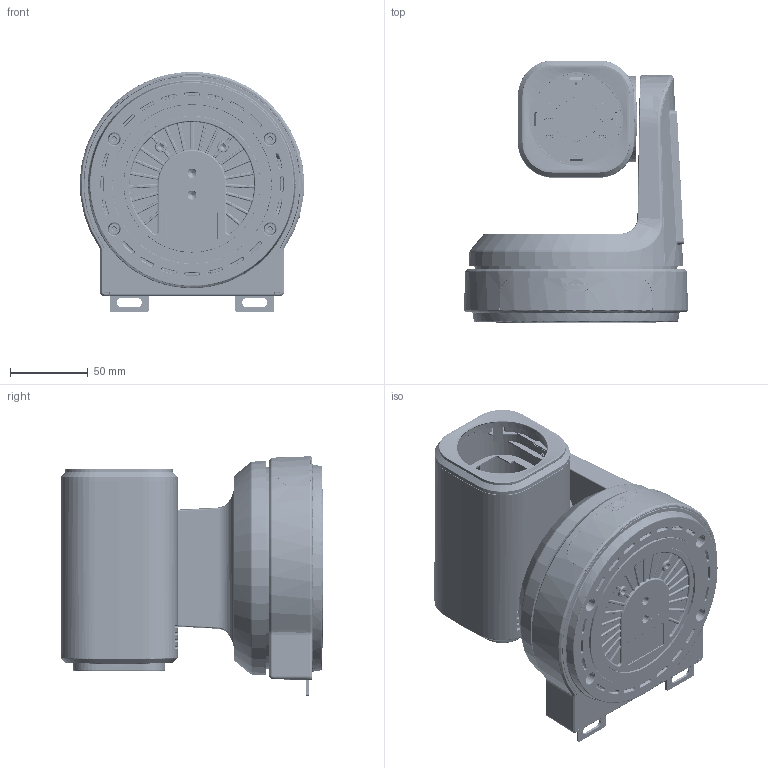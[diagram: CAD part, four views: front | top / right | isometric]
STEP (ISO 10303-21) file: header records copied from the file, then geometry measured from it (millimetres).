
FILE_DESCRIPTION(/* description */ ('','CAx-IF Rec.Pracs.---Representation and Presentation of Product Manufacturing Information (PMI)---4.0---2014-10-13'),/* implementation_level */ '2;1');
FILE_NAME(/* name */ 'BD-MAX-3D-file.step',/* time_stamp */ '2025-01-28T14:24:01+11:00',/* author */ (''),/* organization */ (''),/* preprocessor_version */ 'ST-DEVELOPER v20',/* originating_system */ 'Autodesk Translation Framework v13.20.0.188',/* authorisation */ '');
FILE_SCHEMA (('AP242_MANAGED_MODEL_BASED_3D_ENGINEERING_MIM_LF { 1 0 10303 442 1 1 4 }'));
Products named in the file (2): BIRDDOG-3D-WAIGUANTU-ASSY; BIRDDOG-3D-WAIGUANTU
Assembly tree (1 placements, depth 2):
  BIRDDOG-3D-WAIGUANTU-ASSY
    BIRDDOG-3D-WAIGUANTU
Bounding box: 143.92 x 168.5 x 153.94 mm (x, y, z)
Volume: 362037.7 mm3; surface area: 372797.1 mm2
Topology: 21 solids, 21 shells, 11172 faces, 30545 edges, 19628 vertices
Faces by surface type: plane 5992, cylinder 2466, bspline 1105, cone 1044, torus 518, sphere 47
Full cylindrical faces by diameter (mm): 0.55 x2, 0.6 x1, 0.7 x24, 0.8 x3, 1 x2, 1.05 x1, 1.1 x3, 1.5 x20, 1.6 x40, 1.79 x2, 2 x1, 2.05 x6, 2.1 x6, 2.2 x4, 2.6 x10, 2.7 x10, 2.8 x1, 3 x4, 3.15 x4, 3.2 x4, 3.5 x2, 5 x1, 5.105 x1, 5.9 x1, 6 x9, 8 x1, 8.4 x1, 88 x1, 102 x1
Entity records: 465651 total; most frequent: CARTESIAN_POINT 182657, ORIENTED_EDGE 61056, DIRECTION 57108, EDGE_CURVE 30528, VERTEX_POINT 19630, AXIS2_PLACEMENT_3D 19234, LINE 18640, VECTOR 18640
